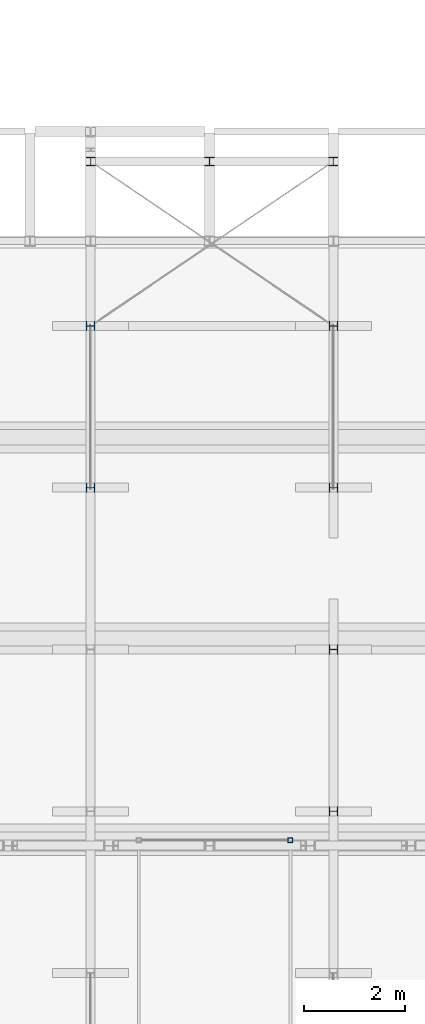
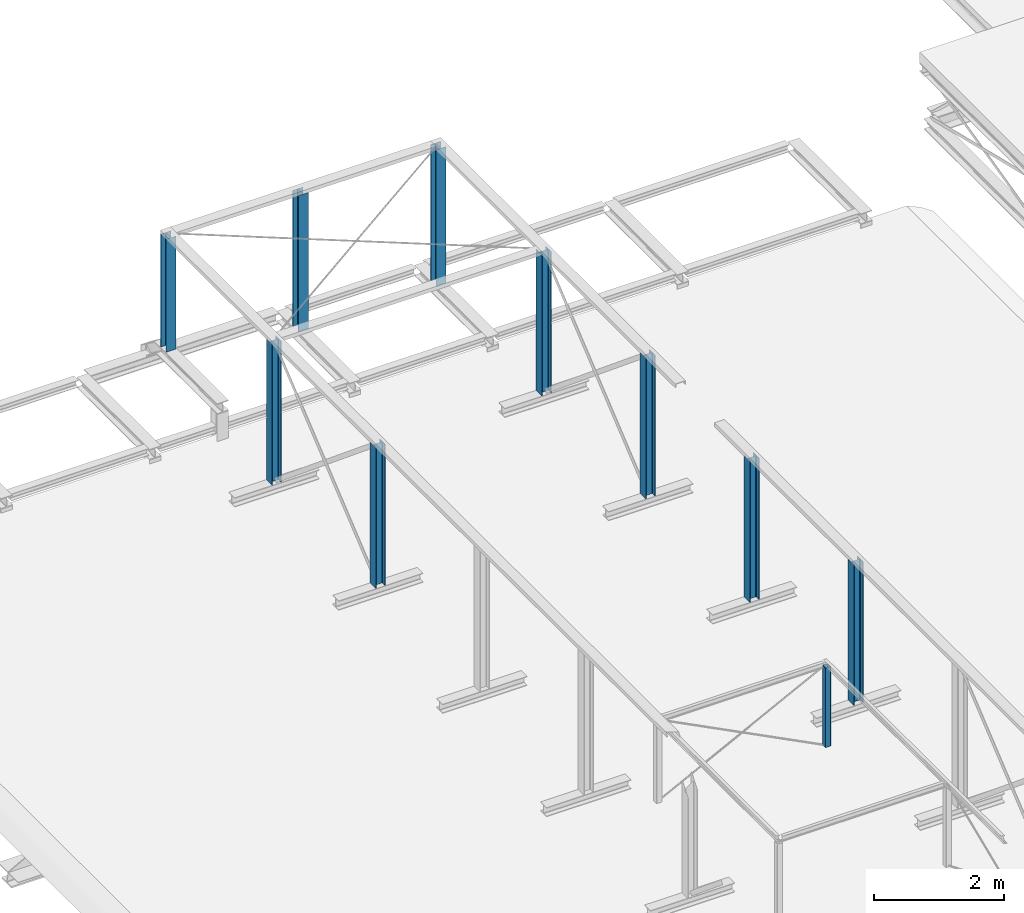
# One storey, part 2 of 50: 10 columns.
"""IFC2X3 building model written with IfcOpenShell, lengths in millimetres."""

from ifc_helpers import new_model, entity, si_unit, converted_unit, derived_unit, direction, frame, frame_2d, origin, place, context, subcontext, project, spatial, polyline, circle_curve, parameter, trimmed, segment, composite_curve, i_section, outline, extrude, source, transform, mapped, material, type_object, type_shapes, element, save


model = new_model("IFC2X3")

# Units and contexts
model_context = context("Model", 3, precision=0.01, world=origin(), true_north=direction((6.12303176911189e-17, 1.0)))
body_context = subcontext(model_context, "Body", "Model", "MODEL_VIEW")
ifc_project = project(units=[si_unit("LENGTHUNIT", "METRE", prefix="MILLI"), si_unit("AREAUNIT", "SQUARE_METRE", prefix="MILLI"), si_unit("VOLUMEUNIT", "CUBIC_METRE"), converted_unit("PLANEANGLEUNIT", "DEGREE", entity("IfcRatioMeasure", 0.0174532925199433), si_unit("PLANEANGLEUNIT", "RADIAN"), dimensions=[0, 0, 0, 0, 0, 0, 0]), si_unit("MASSUNIT", "GRAM", prefix="KILO"), derived_unit("MASSDENSITYUNIT", [(si_unit("MASSUNIT", "GRAM", prefix="KILO"), 1), (si_unit("LENGTHUNIT", "METRE"), -3)]), derived_unit("MOMENTOFINERTIAUNIT", [(si_unit("LENGTHUNIT", "METRE"), 4)]), si_unit("TIMEUNIT", "SECOND"), si_unit("FREQUENCYUNIT", "HERTZ"), si_unit("THERMODYNAMICTEMPERATUREUNIT", "DEGREE_CELSIUS"), derived_unit("THERMALTRANSMITTANCEUNIT", [(si_unit("MASSUNIT", "GRAM", prefix="KILO"), 1), (si_unit("THERMODYNAMICTEMPERATUREUNIT", "KELVIN"), -1), (si_unit("TIMEUNIT", "SECOND"), -3)]), derived_unit("VOLUMETRICFLOWRATEUNIT", [(si_unit("LENGTHUNIT", "METRE"), 3), (si_unit("TIMEUNIT", "SECOND"), -1)]), si_unit("ELECTRICCURRENTUNIT", "AMPERE"), si_unit("ELECTRICVOLTAGEUNIT", "VOLT"), si_unit("POWERUNIT", "WATT"), si_unit("FORCEUNIT", "NEWTON", prefix="KILO"), si_unit("ILLUMINANCEUNIT", "LUX"), si_unit("LUMINOUSFLUXUNIT", "LUMEN"), si_unit("LUMINOUSINTENSITYUNIT", "CANDELA"), derived_unit("USERDEFINED", [(si_unit("MASSUNIT", "GRAM", prefix="KILO"), -1), (si_unit("LENGTHUNIT", "METRE"), -2), (si_unit("TIMEUNIT", "SECOND"), 3), (si_unit("LUMINOUSFLUXUNIT", "LUMEN"), 1)]), derived_unit("LINEARVELOCITYUNIT", [(si_unit("LENGTHUNIT", "METRE"), 1), (si_unit("TIMEUNIT", "SECOND"), -1)]), si_unit("PRESSUREUNIT", "PASCAL"), derived_unit("USERDEFINED", [(si_unit("LENGTHUNIT", "METRE"), -2), (si_unit("MASSUNIT", "GRAM", prefix="KILO"), 1), (si_unit("TIMEUNIT", "SECOND"), -2)]), derived_unit("LINEARFORCEUNIT", [(si_unit("MASSUNIT", "GRAM", prefix="KILO"), 1), (si_unit("LENGTHUNIT", "METRE"), 1), (si_unit("TIMEUNIT", "SECOND"), -2), (si_unit("LENGTHUNIT", "METRE"), -1)]), derived_unit("PLANARFORCEUNIT", [(si_unit("MASSUNIT", "GRAM", prefix="KILO"), 1), (si_unit("LENGTHUNIT", "METRE"), 1), (si_unit("TIMEUNIT", "SECOND"), -2), (si_unit("LENGTHUNIT", "METRE"), -2)])], contexts=[model_context])

# Site, building, storey
site_placement = place(None, origin())
site = spatial("IfcSite", under=ifc_project, at=site_placement, Name="Theater aan de Parade", CompositionType="ELEMENT")
building_placement = place(site_placement, origin())
building = spatial("IfcBuilding", under=site, at=building_placement, Name="Theater aan de Parade", CompositionType="ELEMENT")
storey_placement = place(building_placement, frame((0.0, 0.0, 15820.0)))
storey = spatial("IfcBuildingStorey", under=building, at=storey_placement, Name="04 vierde verdieping", CompositionType="ELEMENT", Elevation=15820.0)

# Columns
ifc_material = material(Name="00_PBT_MAT_staal_S355")
column_type_1 = type_object("IfcColumnType", Name="28_PBT_SC_staal_koker:S355_K100x100x8", PredefinedType="COLUMN", material=ifc_material)
shared_shape_1 = source(origin(), body_context, "Body", "SweptSolid", [
    extrude(outline(composite_curve([segment(trimmed(circle_curve(frame_2d((-40.55, -40.55), x_axis=(1.0, 0.0)), 9.45), [parameter(180.0)], [parameter(270.0)], True, "PARAMETER"), True, "CONTINUOUS"), segment(polyline([(-40.55, -50.0), (40.55, -50.0)]), True, "CONTINUOUS"), segment(trimmed(circle_curve(frame_2d((40.55, -40.55), x_axis=(1.0, 0.0)), 9.45), [parameter(270.0)], [parameter(5.08888749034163e-14)], True, "PARAMETER"), True, "CONTINUOUS"), segment(polyline([(50.0, -40.55), (50.0, 40.55)]), True, "CONTINUOUS"), segment(trimmed(circle_curve(frame_2d((40.55, 40.55), x_axis=(1.0, 0.0)), 9.45), [parameter(3.56222124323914e-13)], [parameter(90.0000000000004)], True, "PARAMETER"), True, "CONTINUOUS"), segment(polyline([(40.55, 50.0), (-40.55, 50.0)]), True, "CONTINUOUS"), segment(trimmed(circle_curve(frame_2d((-40.55, 40.55), x_axis=(1.0, 0.0)), 9.45), [parameter(90.0)], [parameter(180.0)], True, "PARAMETER"), True, "CONTINUOUS"), segment(polyline([(-50.0, 40.55), (-50.0, -40.55)]), True, "CONTINUOUS")], self_intersect=False), holes=[composite_curve([segment(trimmed(circle_curve(frame_2d((34.0, 34.0), x_axis=(1.0, 0.0)), 8.0), [parameter(0.0)], [parameter(90.0000000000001)], True, "PARAMETER"), False, "CONTINUOUS"), segment(polyline([(42.0, 34.0), (42.0, -34.0)]), True, "CONTINUOUS"), segment(trimmed(circle_curve(frame_2d((34.0, -34.0), x_axis=(1.0, 0.0)), 8.0), [parameter(270.0)], [parameter(360.0)], True, "PARAMETER"), False, "CONTINUOUS"), segment(polyline([(34.0, -42.0), (-34.0, -42.0)]), True, "CONTINUOUS"), segment(trimmed(circle_curve(frame_2d((-34.0, -34.0), x_axis=(1.0, 0.0)), 8.0), [parameter(180.0)], [parameter(270.0)], True, "PARAMETER"), False, "CONTINUOUS"), segment(polyline([(-42.0, -34.0), (-42.0, 34.0)]), True, "CONTINUOUS"), segment(trimmed(circle_curve(frame_2d((-34.0, 34.0), x_axis=(1.0, 0.0)), 8.0), [parameter(89.9999999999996)], [parameter(180.0)], True, "PARAMETER"), False, "CONTINUOUS"), segment(polyline([(-34.0, 42.0), (34.0, 42.0)]), True, "CONTINUOUS")], self_intersect=False)]), frame((0.0, 0.0, 15910.0), z_axis=(0.0, 0.0, 1.0), x_axis=(-1.0, 0.0, 0.0)), (0.0, 0.0, 1.0), 1490.0),
])
type_shapes(column_type_1, [shared_shape_1])
column_1_placement = place(storey_placement, frame((27703.8569986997, 29623.8337248, -15820.0), z_axis=(0.0, 0.0, 1.0), x_axis=(-1.0, 0.0, 0.0)))
element("IfcColumn", 1, at=column_1_placement, inside=storey, type_object=column_type_1, material=ifc_material, Name="28_PBT_SC_staal_koker:S355_K100x100x8", ObjectType="28_PBT_SC_staal_koker:S355_K100x100x8", context=body_context, shape_type="MappedRepresentation", body=[
    mapped(shared_shape_1, transform((0.0, 0.0, 0.0), scale=1.0)),
])
column_type_2 = type_object("IfcColumnType", Name="28_PBT_SC_staal_H-profiel:S355_HE180A", PredefinedType="COLUMN", material=ifc_material)
shared_shape_2 = source(origin(), body_context, "Body", "SweptSolid", [
    extrude(outline(composite_curve([segment(polyline([(76.0, -90.0), (85.5000000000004, -90.0)]), True, "CONTINUOUS"), segment(polyline([(85.5000000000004, -90.0), (85.5000000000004, 90.0)]), True, "CONTINUOUS"), segment(polyline([(85.5000000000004, 90.0), (76.0, 90.0)]), True, "CONTINUOUS"), segment(polyline([(76.0, 90.0), (76.0, 18.0)]), True, "CONTINUOUS"), segment(trimmed(circle_curve(frame_2d((61.0, 18.0), x_axis=(1.0, 0.0)), 15.0), [parameter(270.0)], [parameter(0.0)], True, "PARAMETER"), False, "CONTINUOUS"), segment(polyline([(61.0, 3.0), (-61.0, 3.0)]), True, "CONTINUOUS"), segment(trimmed(circle_curve(frame_2d((-61.0, 18.0), x_axis=(0.0, -1.0)), 15.0), [parameter(270.0)], [parameter(0.0)], True, "PARAMETER"), False, "CONTINUOUS"), segment(polyline([(-76.0, 18.0), (-76.0, 90.0)]), True, "CONTINUOUS"), segment(polyline([(-76.0, 90.0), (-85.4999999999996, 90.0)]), True, "CONTINUOUS"), segment(polyline([(-85.4999999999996, 90.0), (-85.4999999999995, -90.0)]), True, "CONTINUOUS"), segment(polyline([(-85.4999999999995, -90.0), (-76.0, -90.0)]), True, "CONTINUOUS"), segment(polyline([(-76.0, -90.0), (-76.0, -18.0)]), True, "CONTINUOUS"), segment(trimmed(circle_curve(frame_2d((-61.0, -18.0), x_axis=(-1.0, 0.0)), 15.0), [parameter(270.0)], [parameter(0.0)], True, "PARAMETER"), False, "CONTINUOUS"), segment(polyline([(-61.0, -3.0), (61.0, -3.0)]), True, "CONTINUOUS"), segment(trimmed(circle_curve(frame_2d((61.0, -18.0), x_axis=(0.0, 1.0)), 15.0), [parameter(270.0)], [parameter(0.0)], True, "PARAMETER"), False, "CONTINUOUS"), segment(polyline([(76.0, -18.0), (76.0, -90.0)]), True, "CONTINUOUS")], self_intersect=False)), frame((0.0, 0.0, 16090.0), z_axis=(0.0, 0.0, 1.0), x_axis=(0.0, -1.0, 0.0)), (0.0, 0.0, 1.0), 2650.00000000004),
])
type_shapes(column_type_2, [shared_shape_2])
for number, where, z_axis, x_axis in (
    (2, (28553.8569986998, 30198.8337248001, -15820.0), (0.0, 0.0, 1.0), (0.0, -1.0, 0.0)),
    (3, (28553.8569986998, 33398.8337248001, -15820.0), (0.0, 0.0, 1.0), (0.0, -1.0, 0.0)),
    (4, (23753.8569986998, 36598.8337248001, -15820.0), (0.0, 0.0, 1.0), (0.0, -1.0, 0.0)),
    (5, (28553.8569986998, 36598.8337248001, -15820.0), (0.0, 0.0, 1.0), (0.0, -1.0, 0.0)),
    (6, (23753.8569986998, 39798.8337248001, -15820.0), (0.0, 0.0, 1.0), (0.0, -1.0, 0.0)),
    (7, (28553.8569986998, 39798.8337248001, -15820.0), (0.0, 0.0, 1.0), (0.0, -1.0, 0.0)),
):
    element("IfcColumn", number, at=place(storey_placement, frame(where, z_axis=z_axis, x_axis=x_axis)), inside=storey, type_object=column_type_2, material=ifc_material, Name="28_PBT_SC_staal_H-profiel:S355_HE180A", ObjectType="28_PBT_SC_staal_H-profiel:S355_HE180A", context=body_context, shape_type="MappedRepresentation", body=[
        mapped(shared_shape_2, transform((0.0, 0.0, 0.0), scale=1.0)),
    ])
column_type_3 = type_object("IfcColumnType", Name="28_PBT_SC_staal_H-profiel:S355_HE180A", PredefinedType="COLUMN", material=ifc_material)
shared_shape_3 = source(origin(), body_context, "Body", "SweptSolid", [
    extrude(i_section(OverallWidth=180.0, OverallDepth=171.0, WebThickness=5.99999999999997, FlangeThickness=9.49999999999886, FilletRadius=15.0, at=frame_2d((-4.05009359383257e-13, -2.1316282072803e-14), x_axis=(0.0, 1.0))), frame((0.0, 0.0, 16620.0), z_axis=(0.0, 0.0, 1.0), x_axis=(0.0, -1.0, 0.0)), (0.0, 0.0, 1.0), 2120.00000000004),
])
type_shapes(column_type_3, [shared_shape_3])
column_2_placement = place(storey_placement, frame((23753.8569986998, 43050.2508721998, -15820.0), z_axis=(0.0, 0.0, 1.0), x_axis=(-1.0, 0.0, 0.0)))
element("IfcColumn", 8, at=column_2_placement, inside=storey, type_object=column_type_3, material=ifc_material, Name="28_PBT_SC_staal_H-profiel:S355_HE180A", ObjectType="28_PBT_SC_staal_H-profiel:S355_HE180A", context=body_context, shape_type="MappedRepresentation", body=[
    mapped(shared_shape_3, transform((0.0, 0.0, 0.0), scale=1.0)),
])
column_type_4 = type_object("IfcColumnType", Name="28_PBT_SC_staal_H-profiel:S355_HE180A", PredefinedType="COLUMN", material=ifc_material)
shared_shape_4 = source(origin(), body_context, "Body", "SweptSolid", [
    extrude(outline(composite_curve([segment(polyline([(76.0, -90.0), (85.5, -90.0)]), True, "CONTINUOUS"), segment(polyline([(85.5, -90.0), (85.5, 90.0)]), True, "CONTINUOUS"), segment(polyline([(85.5, 90.0), (76.0, 90.0)]), True, "CONTINUOUS"), segment(polyline([(76.0, 90.0), (76.0, 18.0)]), True, "CONTINUOUS"), segment(trimmed(circle_curve(frame_2d((61.0, 18.0), x_axis=(1.0, 0.0)), 14.9999999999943), [parameter(269.999999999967)], [parameter(0.0)], True, "PARAMETER"), False, "CONTINUOUS"), segment(polyline([(61.0, 3.0), (-61.0, 3.0)]), True, "CONTINUOUS"), segment(trimmed(circle_curve(frame_2d((-61.0, 18.0), x_axis=(0.0, -1.0)), 14.9999999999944), [parameter(269.999999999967)], [parameter(0.0)], True, "PARAMETER"), False, "CONTINUOUS"), segment(polyline([(-76.0, 18.0), (-76.0, 90.0)]), True, "CONTINUOUS"), segment(polyline([(-76.0, 90.0), (-85.5, 90.0)]), True, "CONTINUOUS"), segment(polyline([(-85.5, 90.0), (-85.5, -90.0)]), True, "CONTINUOUS"), segment(polyline([(-85.5, -90.0), (-76.0, -90.0)]), True, "CONTINUOUS"), segment(polyline([(-76.0, -90.0), (-76.0, -18.0)]), True, "CONTINUOUS"), segment(trimmed(circle_curve(frame_2d((-61.0, -18.0), x_axis=(-1.0, 0.0)), 14.9999999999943), [parameter(269.999999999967)], [parameter(0.0)], True, "PARAMETER"), False, "CONTINUOUS"), segment(polyline([(-61.0, -3.0), (61.0, -3.0)]), True, "CONTINUOUS"), segment(trimmed(circle_curve(frame_2d((61.0, -18.0), x_axis=(0.0, 1.0)), 14.9999999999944), [parameter(269.999999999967)], [parameter(0.0)], True, "PARAMETER"), False, "CONTINUOUS"), segment(polyline([(76.0, -18.0), (76.0, -90.0)]), True, "CONTINUOUS")], self_intersect=False)), frame((26103.8570025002, 43050.2508721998, 16182.0), z_axis=(0.0, 0.0, 1.0), x_axis=(0.0, -1.0, 0.0)), (0.0, 0.0, 1.0), 2558.00000000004),
])
type_shapes(column_type_4, [shared_shape_4])
column_3_placement = place(storey_placement, frame((0.0, 0.0, -15820.0)))
element("IfcColumn", 9, at=column_3_placement, inside=storey, type_object=column_type_4, material=ifc_material, Name="28_PBT_SC_staal_H-profiel:S355_HE180A", ObjectType="28_PBT_SC_staal_H-profiel:S355_HE180A", context=body_context, shape_type="MappedRepresentation", body=[
    mapped(shared_shape_4, transform((0.0, 0.0, 0.0), scale=1.0)),
])
column_type_5 = type_object("IfcColumnType", Name="28_PBT_SC_staal_H-profiel:S355_HE180A", PredefinedType="COLUMN", material=ifc_material)
shared_shape_5 = source(origin(), body_context, "Body", "SweptSolid", [
    extrude(i_section(OverallWidth=180.0, OverallDepth=171.0, WebThickness=5.99999999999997, FlangeThickness=9.49999999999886, FilletRadius=15.0, at=frame_2d((-4.05009359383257e-13, -2.1316282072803e-14), x_axis=(0.0, 1.0))), frame((0.0, 0.0, 16182.0), z_axis=(0.0, 0.0, 1.0), x_axis=(0.0, -1.0, 0.0)), (0.0, 0.0, 1.0), 2558.00000000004),
])
type_shapes(column_type_5, [shared_shape_5])
column_4_placement = place(storey_placement, frame((28553.8569986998, 43050.2508721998, -15820.0), z_axis=(0.0, 0.0, 1.0), x_axis=(-1.0, 0.0, 0.0)))
element("IfcColumn", 10, at=column_4_placement, inside=storey, type_object=column_type_5, material=ifc_material, Name="28_PBT_SC_staal_H-profiel:S355_HE180A", ObjectType="28_PBT_SC_staal_H-profiel:S355_HE180A", context=body_context, shape_type="MappedRepresentation", body=[
    mapped(shared_shape_5, transform((0.0, 0.0, 0.0), scale=1.0)),
])

save(model, "model.ifc")
